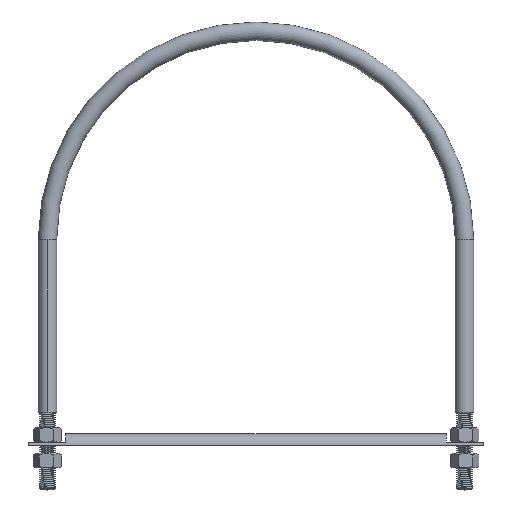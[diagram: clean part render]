
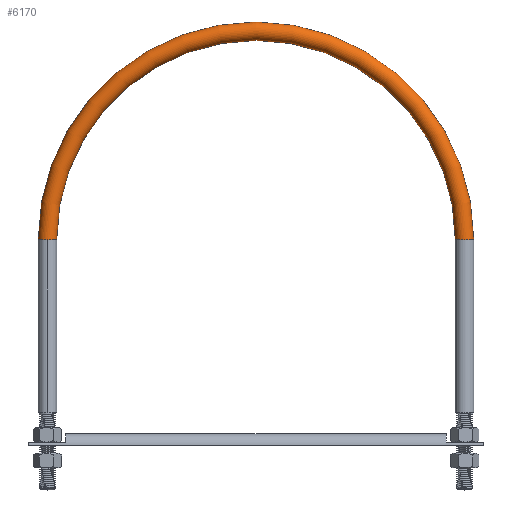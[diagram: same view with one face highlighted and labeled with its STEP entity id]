
A CAD part, top view. The second image highlights one B-rep face of the part: STEP entity #6170.
In plain terms, the highlighted toroidal (fillet/blend) face has major radius 325.438 mm and minor radius 14.383 mm.
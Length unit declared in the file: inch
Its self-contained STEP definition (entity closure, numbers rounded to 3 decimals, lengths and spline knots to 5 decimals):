
#520 = DIRECTION ( 'NONE',  ( 0., 1., 0. ) ) ;
#674 = VERTEX_POINT ( 'NONE', #4669 ) ;
#730 = CIRCLE ( 'NONE', #19141, 0.56625 ) ;
#925 = DIRECTION ( 'NONE',  ( 0., 0., 1. ) ) ;
#1040 = CIRCLE ( 'NONE', #3607, 0.56625 ) ;
#1075 = CIRCLE ( 'NONE', #14930, 0.56625 ) ;
#1941 = ORIENTED_EDGE ( 'NONE', *, *, #11885, .T. ) ;
#2588 = AXIS2_PLACEMENT_3D ( 'NONE', #6276, #3235, #11117 ) ;
#2633 = VERTEX_POINT ( 'NONE', #4906 ) ;
#3235 = DIRECTION ( 'NONE',  ( 0., 0., 1. ) ) ;
#3607 = AXIS2_PLACEMENT_3D ( 'NONE', #8301, #520, #6683 ) ;
#4145 = CARTESIAN_POINT ( 'NONE',  ( 0., 15.375, 0. ) ) ;
#4669 = CARTESIAN_POINT ( 'NONE',  ( -13.37875, 15.375, 0. ) ) ;
#4906 = CARTESIAN_POINT ( 'NONE',  ( -12.8125, 15.375, 0.56625 ) ) ;
#4963 = DIRECTION ( 'NONE',  ( 0., 0., 1. ) ) ;
#5237 = VERTEX_POINT ( 'NONE', #12335 ) ;
#5296 = EDGE_CURVE ( 'NONE', #12393, #6862, #18385, .T. ) ;
#6170 = ADVANCED_FACE ( 'Face1', ( #13543 ), #11950, .T. ) ;
#6205 = ORIENTED_EDGE ( 'NONE', *, *, #11172, .T. ) ;
#6276 = CARTESIAN_POINT ( 'NONE',  ( 0., 15.375, 0. ) ) ;
#6683 = DIRECTION ( 'NONE',  ( 0., 0., 1. ) ) ;
#6747 = DIRECTION ( 'NONE',  ( 0., 0., 1. ) ) ;
#6854 = DIRECTION ( 'NONE',  ( 0., -1., 0. ) ) ;
#6862 = VERTEX_POINT ( 'NONE', #7118 ) ;
#6869 = CIRCLE ( 'NONE', #18165, 13.37875 ) ;
#7118 = CARTESIAN_POINT ( 'NONE',  ( -12.24625, 15.375, 0. ) ) ;
#7707 = DIRECTION ( 'NONE',  ( 1., 0., 0. ) ) ;
#8301 = CARTESIAN_POINT ( 'NONE',  ( 12.8125, 15.375, 0. ) ) ;
#8501 = DIRECTION ( 'NONE',  ( 1., 0., 0. ) ) ;
#8576 = EDGE_LOOP ( 'NONE', ( #6205, #1941, #9472, #9989, #15821 ) ) ;
#9472 = ORIENTED_EDGE ( 'NONE', *, *, #18736, .F. ) ;
#9529 = CARTESIAN_POINT ( 'NONE',  ( 0., 15.375, 0. ) ) ;
#9989 = ORIENTED_EDGE ( 'NONE', *, *, #17419, .F. ) ;
#10351 = CARTESIAN_POINT ( 'NONE',  ( 12.24625, 15.375, 0. ) ) ;
#11117 = DIRECTION ( 'NONE',  ( 1., 0., 0. ) ) ;
#11164 = DIRECTION ( 'NONE',  ( 0., -1., 0. ) ) ;
#11172 = EDGE_CURVE ( 'NONE', #12393, #5237, #1040, .T. ) ;
#11885 = EDGE_CURVE ( 'NONE', #5237, #674, #6869, .T. ) ;
#11950 = TOROIDAL_SURFACE ( 'NONE', #12582, 12.8125, 0.56625 ) ;
#12335 = CARTESIAN_POINT ( 'NONE',  ( 13.37875, 15.375, 0. ) ) ;
#12393 = VERTEX_POINT ( 'NONE', #10351 ) ;
#12481 = DIRECTION ( 'NONE',  ( 0., 0., 1. ) ) ;
#12582 = AXIS2_PLACEMENT_3D ( 'NONE', #4145, #925, #8501 ) ;
#13543 = FACE_OUTER_BOUND ( 'NONE', #8576, .T. ) ;
#14621 = CARTESIAN_POINT ( 'NONE',  ( -12.8125, 15.375, 0. ) ) ;
#14930 = AXIS2_PLACEMENT_3D ( 'NONE', #14621, #6854, #6747 ) ;
#15615 = CARTESIAN_POINT ( 'NONE',  ( -12.8125, 15.375, 0. ) ) ;
#15821 = ORIENTED_EDGE ( 'NONE', *, *, #5296, .F. ) ;
#17419 = EDGE_CURVE ( 'Edge1', #6862, #2633, #730, .T. ) ;
#18165 = AXIS2_PLACEMENT_3D ( 'NONE', #9529, #4963, #7707 ) ;
#18385 = CIRCLE ( 'NONE', #2588, 12.24625 ) ;
#18736 = EDGE_CURVE ( 'Edge1', #2633, #674, #1075, .T. ) ;
#19141 = AXIS2_PLACEMENT_3D ( 'NONE', #15615, #11164, #12481 ) ;
